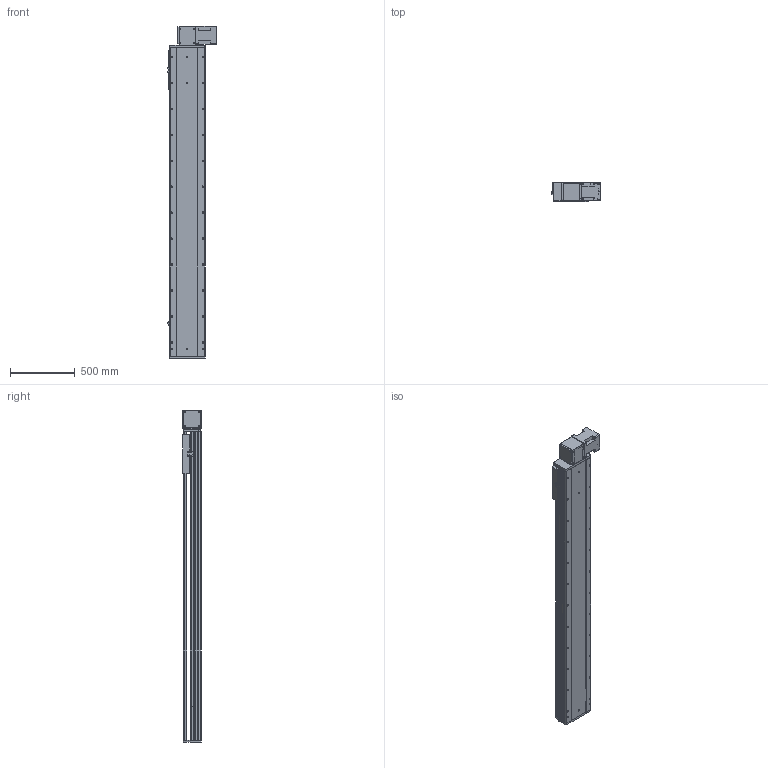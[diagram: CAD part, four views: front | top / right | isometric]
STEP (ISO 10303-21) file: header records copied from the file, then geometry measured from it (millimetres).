
FILE_DESCRIPTION (( 'STEP AP214' ), '1' );
FILE_NAME ('RTB28S-XX-1950-BL-M100-XX-C4.STEP', '2025-12-22T02:27:27', ( '' ), ( '' ), 'SwSTEP 2.0', 'SolidWorks 2018', '' );
FILE_SCHEMA (( 'AUTOMOTIVE_DESIGN' ));
Length unit declared in the file: millimetre
Products named in the file (4): RTB28S-GY-011^RTB28S-XX-XX-BL-M100-XX-C4; RTB28S-XX-1950-BL-M100-XX-C4; RTB28S-GY-008^RTB28S-XX-XX-BL-M100-XX-C4; RTB28S-GY-004^RTB28S-XX-XX-BL-M100-XX-C4
Assembly tree (3 placements, depth 2):
  RTB28S-XX-1950-BL-M100-XX-C4
    RTB28S-GY-011^RTB28S-XX-XX-BL-M100-XX-C4
    RTB28S-GY-004^RTB28S-XX-XX-BL-M100-XX-C4
    RTB28S-GY-008^RTB28S-XX-XX-BL-M100-XX-C4
Bounding box: 380.7 x 145 x 2557 mm (x, y, z)
Volume: 44568137.4 mm3; surface area: 4212980.2 mm2
Topology: 3 solids, 4 shells, 838 faces, 2238 edges, 1428 vertices
Faces by surface type: cylinder 399, plane 355, cone 80, torus 4
Entity records: 31943 total; most frequent: CARTESIAN_POINT 5752, DIRECTION 4752, ORIENTED_EDGE 4412, EDGE_CURVE 2206, AXIS2_PLACEMENT_3D 1736, VERTEX_POINT 1428, VECTOR 1280, LINE 1280
